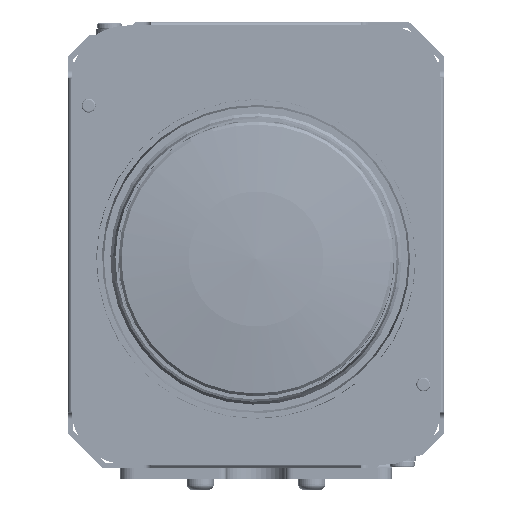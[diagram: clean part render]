
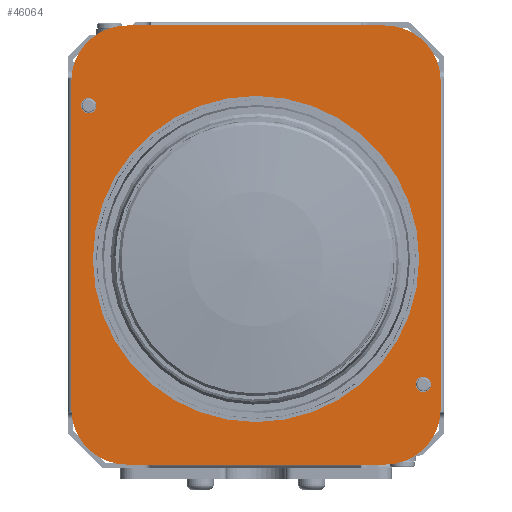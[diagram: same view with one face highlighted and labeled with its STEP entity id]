
A CAD part, left-side view. The second image highlights one B-rep face of the part: STEP entity #46064.
In plain terms, the highlighted planar face has unit normal (-1, 0, 0) as drawn and (0, 0, 1) by its records, which use the part's own axes.
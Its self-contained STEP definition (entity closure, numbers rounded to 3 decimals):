
#46064 = ADVANCED_FACE( '', ( #99257, #99258, #99259, #99260 ), #99261, .T. );
#99257 = FACE_OUTER_BOUND( '', #175530, .T. );
#99258 = FACE_BOUND( '', #175531, .T. );
#99259 = FACE_BOUND( '', #175532, .T. );
#99260 = FACE_BOUND( '', #175533, .T. );
#99261 = PLANE( '', #175534 );
#175530 = EDGE_LOOP( '', ( #312280, #312281, #312282, #312283, #312284, #312285, #312286, #312287 ) );
#175531 = EDGE_LOOP( '', ( #312288 ) );
#175532 = EDGE_LOOP( '', ( #312289 ) );
#175533 = EDGE_LOOP( '', ( #312290 ) );
#175534 = AXIS2_PLACEMENT_3D( '', #312291, #312292, #312293 );
#312280 = ORIENTED_EDGE( '', *, *, #470931, .F. );
#312281 = ORIENTED_EDGE( '', *, *, #470932, .F. );
#312282 = ORIENTED_EDGE( '', *, *, #470933, .F. );
#312283 = ORIENTED_EDGE( '', *, *, #470934, .F. );
#312284 = ORIENTED_EDGE( '', *, *, #470935, .F. );
#312285 = ORIENTED_EDGE( '', *, *, #470936, .F. );
#312286 = ORIENTED_EDGE( '', *, *, #470937, .F. );
#312287 = ORIENTED_EDGE( '', *, *, #468496, .F. );
#312288 = ORIENTED_EDGE( '', *, *, #470938, .F. );
#312289 = ORIENTED_EDGE( '', *, *, #470939, .F. );
#312290 = ORIENTED_EDGE( '', *, *, #470940, .F. );
#312291 = CARTESIAN_POINT( '', ( 0., 0., 57.75 ) );
#312292 = DIRECTION( '', ( 0., 0., 1. ) );
#312293 = DIRECTION( '', ( 1., 0., 0. ) );
#468496 = EDGE_CURVE( '', #543485, #543488, #543489, .T. );
#470931 = EDGE_CURVE( '', #547531, #543485, #547532, .T. );
#470932 = EDGE_CURVE( '', #547533, #547531, #547534, .T. );
#470933 = EDGE_CURVE( '', #547535, #547533, #547536, .T. );
#470934 = EDGE_CURVE( '', #547537, #547535, #547538, .T. );
#470935 = EDGE_CURVE( '', #547539, #547537, #547540, .T. );
#470936 = EDGE_CURVE( '', #547541, #547539, #547542, .T. );
#470937 = EDGE_CURVE( '', #543488, #547541, #547543, .T. );
#470938 = EDGE_CURVE( '', #547544, #547544, #547545, .T. );
#470939 = EDGE_CURVE( '', #547546, #547546, #547547, .T. );
#470940 = EDGE_CURVE( '', #547548, #547548, #547549, .T. );
#543485 = VERTEX_POINT( '', #651351 );
#543488 = VERTEX_POINT( '', #651355 );
#543489 = CIRCLE( '', #651356, 8. );
#547531 = VERTEX_POINT( '', #657804 );
#547532 = LINE( '', #657805, #657806 );
#547533 = VERTEX_POINT( '', #657807 );
#547534 = CIRCLE( '', #657808, 8. );
#547535 = VERTEX_POINT( '', #657809 );
#547536 = LINE( '', #657810, #657811 );
#547537 = VERTEX_POINT( '', #657812 );
#547538 = CIRCLE( '', #657813, 8. );
#547539 = VERTEX_POINT( '', #657814 );
#547540 = LINE( '', #657815, #657816 );
#547541 = VERTEX_POINT( '', #657817 );
#547542 = CIRCLE( '', #657818, 8. );
#547543 = LINE( '', #657819, #657820 );
#547544 = VERTEX_POINT( '', #657821 );
#547545 = CIRCLE( '', #657822, 1.1 );
#547546 = VERTEX_POINT( '', #657823 );
#547547 = CIRCLE( '', #657824, 1.1 );
#547548 = VERTEX_POINT( '', #657825 );
#547549 = CIRCLE( '', #657826, 23.4 );
#651351 = CARTESIAN_POINT( '', ( 26.5, -21.5, 57.75 ) );
#651355 = CARTESIAN_POINT( '', ( 18.5, -29.5, 57.75 ) );
#651356 = AXIS2_PLACEMENT_3D( '', #784197, #784198, #784199 );
#657804 = CARTESIAN_POINT( '', ( 26.5, 25.5, 57.75 ) );
#657805 = CARTESIAN_POINT( '', ( 26.5, 25.5, 57.75 ) );
#657806 = VECTOR( '', #787077, 1000. );
#657807 = CARTESIAN_POINT( '', ( 18.5, 33.5, 57.75 ) );
#657808 = AXIS2_PLACEMENT_3D( '', #787078, #787079, #787080 );
#657809 = CARTESIAN_POINT( '', ( -18.5, 33.5, 57.75 ) );
#657810 = CARTESIAN_POINT( '', ( -18.5, 33.5, 57.75 ) );
#657811 = VECTOR( '', #787081, 1000. );
#657812 = CARTESIAN_POINT( '', ( -26.5, 25.5, 57.75 ) );
#657813 = AXIS2_PLACEMENT_3D( '', #787082, #787083, #787084 );
#657814 = CARTESIAN_POINT( '', ( -26.5, -21.5, 57.75 ) );
#657815 = CARTESIAN_POINT( '', ( -26.5, -21.5, 57.75 ) );
#657816 = VECTOR( '', #787085, 1000. );
#657817 = CARTESIAN_POINT( '', ( -18.5, -29.5, 57.75 ) );
#657818 = AXIS2_PLACEMENT_3D( '', #787086, #787087, #787088 );
#657819 = CARTESIAN_POINT( '', ( 18.5, -29.5, 57.75 ) );
#657820 = VECTOR( '', #787089, 1000. );
#657821 = CARTESIAN_POINT( '', ( 25.1, -18., 57.75 ) );
#657822 = AXIS2_PLACEMENT_3D( '', #787090, #787091, #787092 );
#657823 = CARTESIAN_POINT( '', ( -22.9, 22., 57.75 ) );
#657824 = AXIS2_PLACEMENT_3D( '', #787093, #787094, #787095 );
#657825 = CARTESIAN_POINT( '', ( 23.4, 0., 57.75 ) );
#657826 = AXIS2_PLACEMENT_3D( '', #787096, #787097, #787098 );
#784197 = CARTESIAN_POINT( '', ( 18.5, -21.5, 57.75 ) );
#784198 = DIRECTION( '', ( 0., 0., -1. ) );
#784199 = DIRECTION( '', ( 1., 0., 0. ) );
#787077 = DIRECTION( '', ( 0., -1., 0. ) );
#787078 = CARTESIAN_POINT( '', ( 18.5, 25.5, 57.75 ) );
#787079 = DIRECTION( '', ( 0., 0., -1. ) );
#787080 = DIRECTION( '', ( 0., 1., 0. ) );
#787081 = DIRECTION( '', ( 1., 0., 0. ) );
#787082 = CARTESIAN_POINT( '', ( -18.5, 25.5, 57.75 ) );
#787083 = DIRECTION( '', ( 0., 0., -1. ) );
#787084 = DIRECTION( '', ( -1., 0., 0. ) );
#787085 = DIRECTION( '', ( 0., 1., 0. ) );
#787086 = CARTESIAN_POINT( '', ( -18.5, -21.5, 57.75 ) );
#787087 = DIRECTION( '', ( 0., 0., -1. ) );
#787088 = DIRECTION( '', ( 0., -1., 0. ) );
#787089 = DIRECTION( '', ( -1., 0., 0. ) );
#787090 = CARTESIAN_POINT( '', ( 24., -18., 57.75 ) );
#787091 = DIRECTION( '', ( 0., 0., 1. ) );
#787092 = DIRECTION( '', ( 1., 0., 0. ) );
#787093 = CARTESIAN_POINT( '', ( -24., 22., 57.75 ) );
#787094 = DIRECTION( '', ( 0., 0., 1. ) );
#787095 = DIRECTION( '', ( 1., 0., 0. ) );
#787096 = CARTESIAN_POINT( '', ( 0., 0., 57.75 ) );
#787097 = DIRECTION( '', ( 0., 0., 1. ) );
#787098 = DIRECTION( '', ( 1., 0., 0. ) );
